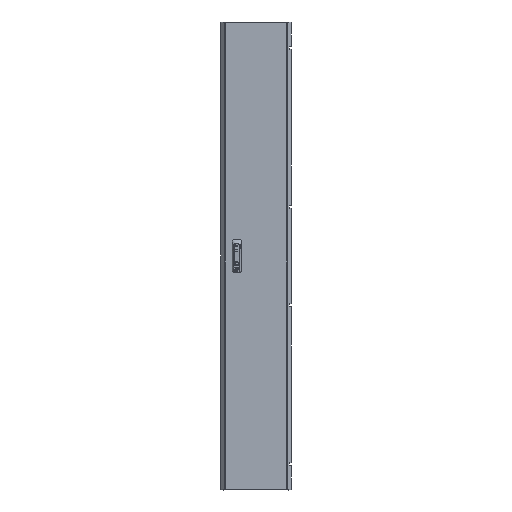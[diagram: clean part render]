
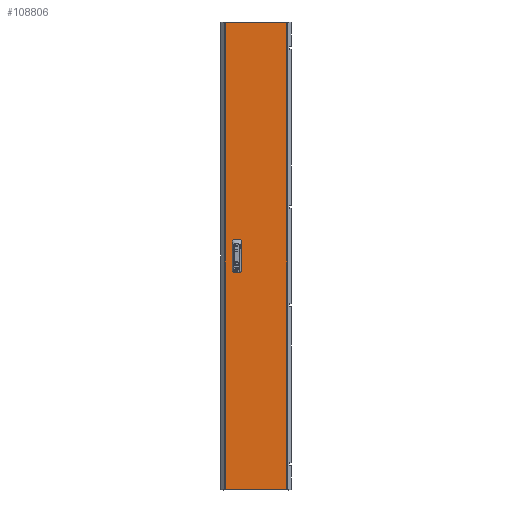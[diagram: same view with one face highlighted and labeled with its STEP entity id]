
A CAD part, top view. The second image highlights one B-rep face of the part: STEP entity #108806.
In plain terms, the highlighted planar face has unit normal (0, 0, 1).
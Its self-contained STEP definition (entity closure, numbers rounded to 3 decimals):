
#191 = LINE ( 'NONE', #42874, #88162 ) ;
#1809 = CARTESIAN_POINT ( 'NONE',  ( -92.5, -12.5, 0. ) ) ;
#3882 = FACE_BOUND ( 'NONE', #69113, .T. ) ;
#4154 = ORIENTED_EDGE ( 'NONE', *, *, #124423, .F. ) ;
#4408 = DIRECTION ( 'NONE',  ( 0., -1., 0. ) ) ;
#4499 = VECTOR ( 'NONE', #93600, 1000. ) ;
#4896 = LINE ( 'NONE', #47582, #6333 ) ;
#6333 = VECTOR ( 'NONE', #78465, 1000. ) ;
#7528 = LINE ( 'NONE', #135748, #10808 ) ;
#10808 = VECTOR ( 'NONE', #39034, 1000. ) ;
#12058 = VERTEX_POINT ( 'NONE', #114718 ) ;
#14355 = PLANE ( 'NONE',  #73196 ) ;
#15276 = EDGE_CURVE ( 'NONE', #96259, #44587, #86150, .T. ) ;
#15963 = ORIENTED_EDGE ( 'NONE', *, *, #46536, .F. ) ;
#15992 = DIRECTION ( 'NONE',  ( 0., 1., 0. ) ) ;
#16172 = CARTESIAN_POINT ( 'NONE',  ( -127.875, -969.5, 0. ) ) ;
#17576 = ORIENTED_EDGE ( 'NONE', *, *, #15276, .T. ) ;
#19061 = EDGE_CURVE ( 'NONE', #12058, #20808, #7528, .T. ) ;
#20808 = VERTEX_POINT ( 'NONE', #20957 ) ;
#20957 = CARTESIAN_POINT ( 'NONE',  ( -67.5, 62.5, 0. ) ) ;
#22422 = VECTOR ( 'NONE', #38828, 1000. ) ;
#24329 = VECTOR ( 'NONE', #104035, 1000. ) ;
#24401 = CARTESIAN_POINT ( 'NONE',  ( -127.875, -969.5, 0. ) ) ;
#25581 = DIRECTION ( 'NONE',  ( -1., 0., 0. ) ) ;
#28735 = EDGE_CURVE ( 'NONE', #118918, #94937, #57107, .T. ) ;
#29219 = LINE ( 'NONE', #132979, #130016 ) ;
#29307 = VERTEX_POINT ( 'NONE', #54199 ) ;
#30118 = VECTOR ( 'NONE', #4408, 1000. ) ;
#32197 = ORIENTED_EDGE ( 'NONE', *, *, #82513, .T. ) ;
#34255 = EDGE_CURVE ( 'NONE', #92518, #106998, #80740, .T. ) ;
#34903 = DIRECTION ( 'NONE',  ( -1., 0., 0. ) ) ;
#38419 = ORIENTED_EDGE ( 'NONE', *, *, #48622, .F. ) ;
#38654 = CARTESIAN_POINT ( 'NONE',  ( -92.5, -62.5, 0. ) ) ;
#38828 = DIRECTION ( 'NONE',  ( -1., 0., 0. ) ) ;
#39034 = DIRECTION ( 'NONE',  ( 0., 1., 0. ) ) ;
#40055 = CARTESIAN_POINT ( 'NONE',  ( -127.875, 969.5, 0. ) ) ;
#40319 = ORIENTED_EDGE ( 'NONE', *, *, #28735, .F. ) ;
#40916 = LINE ( 'NONE', #114552, #24329 ) ;
#42874 = CARTESIAN_POINT ( 'NONE',  ( -127.875, -969.5, 0. ) ) ;
#44587 = VERTEX_POINT ( 'NONE', #101330 ) ;
#45418 = CARTESIAN_POINT ( 'NONE',  ( -92.5, -12.5, 0. ) ) ;
#46403 = ORIENTED_EDGE ( 'NONE', *, *, #19061, .F. ) ;
#46536 = EDGE_CURVE ( 'NONE', #29307, #92518, #55259, .T. ) ;
#47582 = CARTESIAN_POINT ( 'NONE',  ( -67.5, -62.5, 0. ) ) ;
#48622 = EDGE_CURVE ( 'NONE', #94937, #12058, #83771, .T. ) ;
#50924 = EDGE_CURVE ( 'NONE', #106998, #106500, #29219, .T. ) ;
#54199 = CARTESIAN_POINT ( 'NONE',  ( -67.5, -12.5, 0. ) ) ;
#54347 = EDGE_CURVE ( 'NONE', #80284, #84097, #191, .T. ) ;
#55211 = ORIENTED_EDGE ( 'NONE', *, *, #54347, .T. ) ;
#55259 = LINE ( 'NONE', #45418, #107419 ) ;
#57107 = LINE ( 'NONE', #78162, #92193 ) ;
#57628 = VECTOR ( 'NONE', #15992, 1000. ) ;
#57674 = VECTOR ( 'NONE', #65061, 1000. ) ;
#58385 = EDGE_LOOP ( 'NONE', ( #15963, #4154, #81496, #84104 ) ) ;
#60747 = DIRECTION ( 'NONE',  ( 1., 0., 0. ) ) ;
#65061 = DIRECTION ( 'NONE',  ( 1., 0., 0. ) ) ;
#69113 = EDGE_LOOP ( 'NONE', ( #71154, #46403, #38419, #40319 ) ) ;
#71154 = ORIENTED_EDGE ( 'NONE', *, *, #109710, .F. ) ;
#73196 = AXIS2_PLACEMENT_3D ( 'NONE', #101255, #112449, #25581 ) ;
#78162 = CARTESIAN_POINT ( 'NONE',  ( -92.5, 12.5, 0. ) ) ;
#78465 = DIRECTION ( 'NONE',  ( 0., 1., 0. ) ) ;
#80284 = VERTEX_POINT ( 'NONE', #40055 ) ;
#80740 = LINE ( 'NONE', #38654, #30118 ) ;
#80849 = CARTESIAN_POINT ( 'NONE',  ( -92.5, -62.5, 0. ) ) ;
#81496 = ORIENTED_EDGE ( 'NONE', *, *, #50924, .F. ) ;
#82398 = CARTESIAN_POINT ( 'NONE',  ( -92.5, 12.5, 0. ) ) ;
#82513 = EDGE_CURVE ( 'NONE', #84097, #96259, #84732, .T. ) ;
#83749 = CARTESIAN_POINT ( 'NONE',  ( -67.5, -62.5, 0. ) ) ;
#83771 = LINE ( 'NONE', #82398, #4499 ) ;
#84097 = VERTEX_POINT ( 'NONE', #16172 ) ;
#84104 = ORIENTED_EDGE ( 'NONE', *, *, #34255, .F. ) ;
#84732 = LINE ( 'NONE', #24401, #57674 ) ;
#86150 = LINE ( 'NONE', #111329, #57628 ) ;
#88162 = VECTOR ( 'NONE', #128395, 1000. ) ;
#92121 = LINE ( 'NONE', #93489, #22422 ) ;
#92193 = VECTOR ( 'NONE', #99191, 1000. ) ;
#92299 = ORIENTED_EDGE ( 'NONE', *, *, #93940, .T. ) ;
#92518 = VERTEX_POINT ( 'NONE', #1809 ) ;
#93489 = CARTESIAN_POINT ( 'NONE',  ( -127.875, 969.5, 0. ) ) ;
#93600 = DIRECTION ( 'NONE',  ( 1., 0., 0. ) ) ;
#93940 = EDGE_CURVE ( 'NONE', #44587, #80284, #92121, .T. ) ;
#94937 = VERTEX_POINT ( 'NONE', #136947 ) ;
#96259 = VERTEX_POINT ( 'NONE', #112548 ) ;
#99191 = DIRECTION ( 'NONE',  ( 0., -1., 0. ) ) ;
#101255 = CARTESIAN_POINT ( 'NONE',  ( 0., 0., 0. ) ) ;
#101330 = CARTESIAN_POINT ( 'NONE',  ( 127.875, 969.5, 0. ) ) ;
#104035 = DIRECTION ( 'NONE',  ( -1., 0., 0. ) ) ;
#105038 = CARTESIAN_POINT ( 'NONE',  ( -92.5, 62.5, 0. ) ) ;
#106500 = VERTEX_POINT ( 'NONE', #83749 ) ;
#106998 = VERTEX_POINT ( 'NONE', #80849 ) ;
#107419 = VECTOR ( 'NONE', #34903, 1000. ) ;
#108806 = ADVANCED_FACE ( 'NONE', ( #3882, #132784, #120883 ), #14355, .F. ) ;
#109710 = EDGE_CURVE ( 'NONE', #20808, #118918, #40916, .T. ) ;
#111329 = CARTESIAN_POINT ( 'NONE',  ( 127.875, -969.5, 0. ) ) ;
#112449 = DIRECTION ( 'NONE',  ( 0., 0., -1. ) ) ;
#112548 = CARTESIAN_POINT ( 'NONE',  ( 127.875, -969.5, 0. ) ) ;
#114552 = CARTESIAN_POINT ( 'NONE',  ( -92.5, 62.5, 0. ) ) ;
#114718 = CARTESIAN_POINT ( 'NONE',  ( -67.5, 12.5, 0. ) ) ;
#115881 = EDGE_LOOP ( 'NONE', ( #17576, #92299, #55211, #32197 ) ) ;
#118918 = VERTEX_POINT ( 'NONE', #105038 ) ;
#120883 = FACE_OUTER_BOUND ( 'NONE', #115881, .T. ) ;
#124423 = EDGE_CURVE ( 'NONE', #106500, #29307, #4896, .T. ) ;
#128395 = DIRECTION ( 'NONE',  ( 0., -1., 0. ) ) ;
#130016 = VECTOR ( 'NONE', #60747, 1000. ) ;
#132784 = FACE_BOUND ( 'NONE', #58385, .T. ) ;
#132979 = CARTESIAN_POINT ( 'NONE',  ( -92.5, -62.5, 0. ) ) ;
#135748 = CARTESIAN_POINT ( 'NONE',  ( -67.5, 12.5, 0. ) ) ;
#136947 = CARTESIAN_POINT ( 'NONE',  ( -92.5, 12.5, 0. ) ) ;
